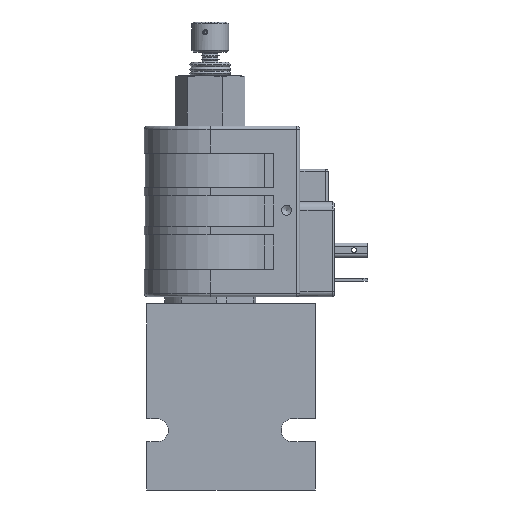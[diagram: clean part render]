
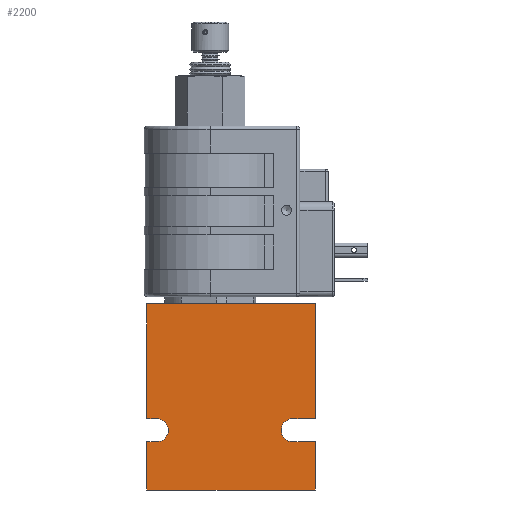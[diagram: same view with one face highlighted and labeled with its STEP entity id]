
A CAD part, front view. The second image highlights one B-rep face of the part: STEP entity #2200.
In plain terms, the highlighted planar face has unit normal (0, -1, 0).
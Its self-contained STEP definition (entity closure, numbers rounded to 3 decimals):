
#2200 = ADVANCED_FACE( '', ( #4463 ), #4464, .T. );
#4463 = FACE_OUTER_BOUND( '', #6903, .T. );
#4464 = PLANE( '', #6904 );
#6903 = EDGE_LOOP( '', ( #12400, #12401, #12402, #12403, #12404, #12405, #12406, #12407, #12408, #12409, #12410, #12411 ) );
#6904 = AXIS2_PLACEMENT_3D( '', #12412, #12413, #12414 );
#12400 = ORIENTED_EDGE( '', *, *, #14901, .F. );
#12401 = ORIENTED_EDGE( '', *, *, #14987, .F. );
#12402 = ORIENTED_EDGE( '', *, *, #15275, .F. );
#12403 = ORIENTED_EDGE( '', *, *, #14396, .F. );
#12404 = ORIENTED_EDGE( '', *, *, #15618, .F. );
#12405 = ORIENTED_EDGE( '', *, *, #14696, .F. );
#12406 = ORIENTED_EDGE( '', *, *, #15699, .F. );
#12407 = ORIENTED_EDGE( '', *, *, #15521, .F. );
#12408 = ORIENTED_EDGE( '', *, *, #15158, .F. );
#12409 = ORIENTED_EDGE( '', *, *, #15776, .F. );
#12410 = ORIENTED_EDGE( '', *, *, #15242, .F. );
#12411 = ORIENTED_EDGE( '', *, *, #15271, .F. );
#12412 = CARTESIAN_POINT( '', ( 44., 0., -38. ) );
#12413 = DIRECTION( '', ( 0., -1., 0. ) );
#12414 = DIRECTION( '', ( 0., 0., -1. ) );
#14396 = EDGE_CURVE( '', #17155, #17156, #17157, .T. );
#14696 = EDGE_CURVE( '', #17637, #17638, #17639, .T. );
#14901 = EDGE_CURVE( '', #17948, #17949, #17950, .T. );
#14987 = EDGE_CURVE( '', #18070, #17948, #18071, .T. );
#15158 = EDGE_CURVE( '', #18312, #18313, #18314, .T. );
#15242 = EDGE_CURVE( '', #18427, #18428, #18429, .T. );
#15271 = EDGE_CURVE( '', #17949, #18427, #18468, .T. );
#15275 = EDGE_CURVE( '', #17156, #18070, #18472, .T. );
#15521 = EDGE_CURVE( '', #18313, #18793, #18794, .T. );
#15618 = EDGE_CURVE( '', #17638, #17155, #18922, .T. );
#15699 = EDGE_CURVE( '', #18793, #17637, #19020, .T. );
#15776 = EDGE_CURVE( '', #18428, #18312, #19110, .T. );
#17155 = VERTEX_POINT( '', #21591 );
#17156 = VERTEX_POINT( '', #21592 );
#17157 = LINE( '', #21593, #21594 );
#17637 = VERTEX_POINT( '', #22508 );
#17638 = VERTEX_POINT( '', #22509 );
#17639 = LINE( '', #22510, #22511 );
#17948 = VERTEX_POINT( '', #23114 );
#17949 = VERTEX_POINT( '', #23115 );
#17950 = LINE( '', #23116, #23117 );
#18070 = VERTEX_POINT( '', #23389 );
#18071 = LINE( '', #23390, #23391 );
#18312 = VERTEX_POINT( '', #23823 );
#18313 = VERTEX_POINT( '', #23824 );
#18314 = CIRCLE( '', #23825, 3.5 );
#18427 = VERTEX_POINT( '', #24036 );
#18428 = VERTEX_POINT( '', #24037 );
#18429 = LINE( '', #24038, #24039 );
#18468 = LINE( '', #24107, #24108 );
#18472 = CIRCLE( '', #24113, 3.5 );
#18793 = VERTEX_POINT( '', #24778 );
#18794 = LINE( '', #24779, #24780 );
#18922 = LINE( '', #25054, #25055 );
#19020 = LINE( '', #25261, #25262 );
#19110 = LINE( '', #25422, #25423 );
#21591 = CARTESIAN_POINT( '', ( 0., 0., -41.5 ) );
#21592 = CARTESIAN_POINT( '', ( 3., 0., -41.5 ) );
#21593 = CARTESIAN_POINT( '', ( 3., 0., -41.5 ) );
#21594 = VECTOR( '', #26476, 1000. );
#22508 = CARTESIAN_POINT( '', ( 50.8, 0., -56. ) );
#22509 = CARTESIAN_POINT( '', ( 0., 0., -56. ) );
#22510 = CARTESIAN_POINT( '', ( 50.8, 0., -56. ) );
#22511 = VECTOR( '', #26750, 1000. );
#23114 = CARTESIAN_POINT( '', ( 0., 0., -34.5 ) );
#23115 = CARTESIAN_POINT( '', ( 0., 0., 0. ) );
#23116 = CARTESIAN_POINT( '', ( 0., 0., -34.5 ) );
#23117 = VECTOR( '', #26886, 1000. );
#23389 = CARTESIAN_POINT( '', ( 3., 0., -34.5 ) );
#23390 = CARTESIAN_POINT( '', ( 3., 0., -34.5 ) );
#23391 = VECTOR( '', #26952, 1000. );
#23823 = CARTESIAN_POINT( '', ( 44., 0., -34.5 ) );
#23824 = CARTESIAN_POINT( '', ( 44., 0., -41.5 ) );
#23825 = AXIS2_PLACEMENT_3D( '', #27088, #27089, #27090 );
#24036 = CARTESIAN_POINT( '', ( 50.8, 0., 0. ) );
#24037 = CARTESIAN_POINT( '', ( 50.8, 0., -34.5 ) );
#24038 = CARTESIAN_POINT( '', ( 50.8, 0., 0. ) );
#24039 = VECTOR( '', #27139, 1000. );
#24107 = CARTESIAN_POINT( '', ( 0., 0., 0. ) );
#24108 = VECTOR( '', #27154, 1000. );
#24113 = AXIS2_PLACEMENT_3D( '', #27156, #27157, #27158 );
#24778 = CARTESIAN_POINT( '', ( 50.8, 0., -41.5 ) );
#24779 = CARTESIAN_POINT( '', ( 44., 0., -41.5 ) );
#24780 = VECTOR( '', #27351, 1000. );
#25054 = CARTESIAN_POINT( '', ( 0., 0., -56. ) );
#25055 = VECTOR( '', #27420, 1000. );
#25261 = CARTESIAN_POINT( '', ( 50.8, 0., -41.5 ) );
#25262 = VECTOR( '', #27485, 1000. );
#25422 = CARTESIAN_POINT( '', ( 44., 0., -34.5 ) );
#25423 = VECTOR( '', #27524, 1000. );
#26476 = DIRECTION( '', ( 1., 0., 0. ) );
#26750 = DIRECTION( '', ( -1., 0., 0. ) );
#26886 = DIRECTION( '', ( 0., 0., 1. ) );
#26952 = DIRECTION( '', ( -1., 0., 0. ) );
#27088 = CARTESIAN_POINT( '', ( 44., 0., -38. ) );
#27089 = DIRECTION( '', ( 0., -1., 0. ) );
#27090 = DIRECTION( '', ( 1., 0., 0. ) );
#27139 = DIRECTION( '', ( 0., 0., -1. ) );
#27154 = DIRECTION( '', ( 1., 0., 0. ) );
#27156 = CARTESIAN_POINT( '', ( 3., 0., -38. ) );
#27157 = DIRECTION( '', ( 0., -1., 0. ) );
#27158 = DIRECTION( '', ( -1., 0., 0. ) );
#27351 = DIRECTION( '', ( 1., 0., 0. ) );
#27420 = DIRECTION( '', ( 0., 0., 1. ) );
#27485 = DIRECTION( '', ( 0., 0., -1. ) );
#27524 = DIRECTION( '', ( -1., 0., 0. ) );
